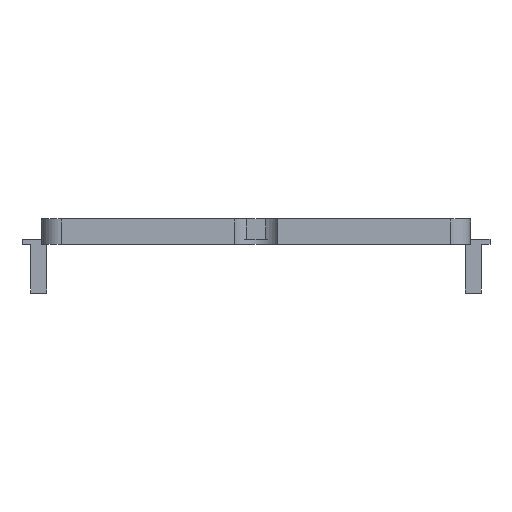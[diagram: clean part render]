
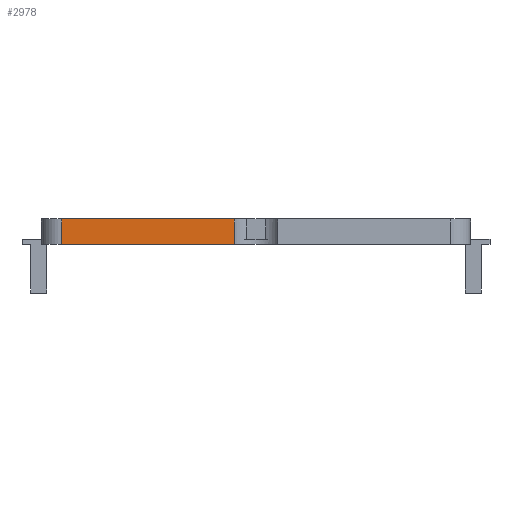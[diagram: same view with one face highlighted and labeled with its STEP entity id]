
A CAD part, front view. The second image highlights one B-rep face of the part: STEP entity #2978.
In plain terms, the highlighted planar face has unit normal (0, -1, 0).
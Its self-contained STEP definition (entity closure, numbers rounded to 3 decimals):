
#44 = CYLINDRICAL_SURFACE('',#45,3.);
#45 = AXIS2_PLACEMENT_3D('',#46,#47,#48);
#46 = CARTESIAN_POINT('',(-29.,-12.,0.7));
#47 = DIRECTION('',(0.,0.,1.));
#48 = DIRECTION('',(-1.,-0.,0.));
#72 = PLANE('',#73);
#73 = AXIS2_PLACEMENT_3D('',#74,#75,#76);
#74 = CARTESIAN_POINT('',(-32.,-15.,0.7));
#75 = DIRECTION('',(0.,0.,1.));
#76 = DIRECTION('',(1.,0.,0.));
#340 = PLANE('',#341);
#341 = AXIS2_PLACEMENT_3D('',#342,#343,#344);
#342 = CARTESIAN_POINT('',(-32.,-15.,4.5));
#343 = DIRECTION('',(0.,0.,1.));
#344 = DIRECTION('',(1.,0.,0.));
#356 = VERTEX_POINT('',#357);
#357 = CARTESIAN_POINT('',(-29.,-15.,0.7));
#379 = EDGE_CURVE('',#356,#380,#382,.T.);
#380 = VERTEX_POINT('',#381);
#381 = CARTESIAN_POINT('',(-29.,-15.,4.5));
#382 = SURFACE_CURVE('',#383,(#387,#394),.PCURVE_S1.);
#383 = LINE('',#384,#385);
#384 = CARTESIAN_POINT('',(-29.,-15.,0.7));
#385 = VECTOR('',#386,1.);
#386 = DIRECTION('',(0.,0.,1.));
#387 = PCURVE('',#44,#388);
#388 = DEFINITIONAL_REPRESENTATION('',(#389),#393);
#389 = LINE('',#390,#391);
#390 = CARTESIAN_POINT('',(1.571,0.));
#391 = VECTOR('',#392,1.);
#392 = DIRECTION('',(0.,1.));
#393 = ( GEOMETRIC_REPRESENTATION_CONTEXT(2) 
PARAMETRIC_REPRESENTATION_CONTEXT() REPRESENTATION_CONTEXT('2D SPACE',''
  ) );
#394 = PCURVE('',#395,#400);
#395 = PLANE('',#396);
#396 = AXIS2_PLACEMENT_3D('',#397,#398,#399);
#397 = CARTESIAN_POINT('',(-32.,-15.,0.7));
#398 = DIRECTION('',(0.,1.,0.));
#399 = DIRECTION('',(0.,0.,1.));
#400 = DEFINITIONAL_REPRESENTATION('',(#401),#405);
#401 = LINE('',#402,#403);
#402 = CARTESIAN_POINT('',(0.,3.));
#403 = VECTOR('',#404,1.);
#404 = DIRECTION('',(1.,0.));
#405 = ( GEOMETRIC_REPRESENTATION_CONTEXT(2) 
PARAMETRIC_REPRESENTATION_CONTEXT() REPRESENTATION_CONTEXT('2D SPACE',''
  ) );
#435 = EDGE_CURVE('',#356,#436,#438,.T.);
#436 = VERTEX_POINT('',#437);
#437 = CARTESIAN_POINT('',(-3.231,-15.,0.7));
#438 = SURFACE_CURVE('',#439,(#443,#450),.PCURVE_S1.);
#439 = LINE('',#440,#441);
#440 = CARTESIAN_POINT('',(-32.,-15.,0.7));
#441 = VECTOR('',#442,1.);
#442 = DIRECTION('',(1.,0.,0.));
#443 = PCURVE('',#72,#444);
#444 = DEFINITIONAL_REPRESENTATION('',(#445),#449);
#445 = LINE('',#446,#447);
#446 = CARTESIAN_POINT('',(0.,0.));
#447 = VECTOR('',#448,1.);
#448 = DIRECTION('',(1.,0.));
#449 = ( GEOMETRIC_REPRESENTATION_CONTEXT(2) 
PARAMETRIC_REPRESENTATION_CONTEXT() REPRESENTATION_CONTEXT('2D SPACE',''
  ) );
#450 = PCURVE('',#395,#451);
#451 = DEFINITIONAL_REPRESENTATION('',(#452),#456);
#452 = LINE('',#453,#454);
#453 = CARTESIAN_POINT('',(0.,0.));
#454 = VECTOR('',#455,1.);
#455 = DIRECTION('',(0.,1.));
#456 = ( GEOMETRIC_REPRESENTATION_CONTEXT(2) 
PARAMETRIC_REPRESENTATION_CONTEXT() REPRESENTATION_CONTEXT('2D SPACE',''
  ) );
#479 = CYLINDRICAL_SURFACE('',#480,3.8);
#480 = AXIS2_PLACEMENT_3D('',#481,#482,#483);
#481 = CARTESIAN_POINT('',(0.,-17.,-0.5));
#482 = DIRECTION('',(-0.,-0.,-1.));
#483 = DIRECTION('',(1.,0.,0.));
#2355 = EDGE_CURVE('',#380,#2356,#2358,.T.);
#2356 = VERTEX_POINT('',#2357);
#2357 = CARTESIAN_POINT('',(-3.231,-15.,4.5));
#2358 = SURFACE_CURVE('',#2359,(#2363,#2370),.PCURVE_S1.);
#2359 = LINE('',#2360,#2361);
#2360 = CARTESIAN_POINT('',(-32.,-15.,4.5));
#2361 = VECTOR('',#2362,1.);
#2362 = DIRECTION('',(1.,0.,0.));
#2363 = PCURVE('',#340,#2364);
#2364 = DEFINITIONAL_REPRESENTATION('',(#2365),#2369);
#2365 = LINE('',#2366,#2367);
#2366 = CARTESIAN_POINT('',(0.,0.));
#2367 = VECTOR('',#2368,1.);
#2368 = DIRECTION('',(1.,0.));
#2369 = ( GEOMETRIC_REPRESENTATION_CONTEXT(2) 
PARAMETRIC_REPRESENTATION_CONTEXT() REPRESENTATION_CONTEXT('2D SPACE',''
  ) );
#2370 = PCURVE('',#395,#2371);
#2371 = DEFINITIONAL_REPRESENTATION('',(#2372),#2376);
#2372 = LINE('',#2373,#2374);
#2373 = CARTESIAN_POINT('',(3.8,0.));
#2374 = VECTOR('',#2375,1.);
#2375 = DIRECTION('',(0.,1.));
#2376 = ( GEOMETRIC_REPRESENTATION_CONTEXT(2) 
PARAMETRIC_REPRESENTATION_CONTEXT() REPRESENTATION_CONTEXT('2D SPACE',''
  ) );
#2978 = ADVANCED_FACE('',(#2979),#395,.F.);
#2979 = FACE_BOUND('',#2980,.F.);
#2980 = EDGE_LOOP('',(#2981,#2982,#2983,#2984));
#2981 = ORIENTED_EDGE('',*,*,#435,.F.);
#2982 = ORIENTED_EDGE('',*,*,#379,.T.);
#2983 = ORIENTED_EDGE('',*,*,#2355,.T.);
#2984 = ORIENTED_EDGE('',*,*,#2985,.T.);
#2985 = EDGE_CURVE('',#2356,#436,#2986,.T.);
#2986 = SURFACE_CURVE('',#2987,(#2991,#2998),.PCURVE_S1.);
#2987 = LINE('',#2988,#2989);
#2988 = CARTESIAN_POINT('',(-3.231,-15.,-0.5));
#2989 = VECTOR('',#2990,1.);
#2990 = DIRECTION('',(-0.,-0.,-1.));
#2991 = PCURVE('',#395,#2992);
#2992 = DEFINITIONAL_REPRESENTATION('',(#2993),#2997);
#2993 = LINE('',#2994,#2995);
#2994 = CARTESIAN_POINT('',(-1.2,28.769));
#2995 = VECTOR('',#2996,1.);
#2996 = DIRECTION('',(-1.,0.));
#2997 = ( GEOMETRIC_REPRESENTATION_CONTEXT(2) 
PARAMETRIC_REPRESENTATION_CONTEXT() REPRESENTATION_CONTEXT('2D SPACE',''
  ) );
#2998 = PCURVE('',#479,#2999);
#2999 = DEFINITIONAL_REPRESENTATION('',(#3000),#3004);
#3000 = LINE('',#3001,#3002);
#3001 = CARTESIAN_POINT('',(-2.587,0.));
#3002 = VECTOR('',#3003,1.);
#3003 = DIRECTION('',(-0.,1.));
#3004 = ( GEOMETRIC_REPRESENTATION_CONTEXT(2) 
PARAMETRIC_REPRESENTATION_CONTEXT() REPRESENTATION_CONTEXT('2D SPACE',''
  ) );
